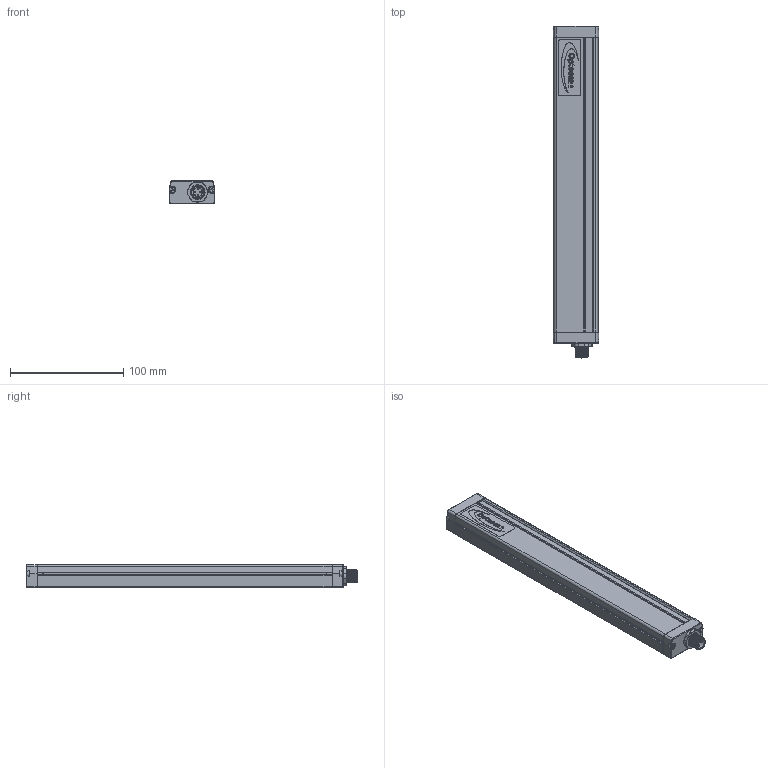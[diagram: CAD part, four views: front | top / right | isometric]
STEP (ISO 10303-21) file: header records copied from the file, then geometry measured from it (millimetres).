
FILE_DESCRIPTION(/* description */ (''),/* implementation_level */ '2;1');
FILE_NAME(/* name */ 'C:\Users\Andrea\SynologyDrive\Optoscan\Libreria Componenti\00 - Barriere\Barriera sorgente\Barriera RX\Argo_260_RX.stp',/* time_stamp */ '2022-06-30T15:46:46+02:00',/* author */ ('Andrea'),/* organization */ (''),/* preprocessor_version */ 'ST-DEVELOPER v18.1',/* originating_system */ 'Autodesk Inventor 2022',/* authorisation */ '');
FILE_SCHEMA (('AUTOMOTIVE_DESIGN { 1 0 10303 214 3 1 1 }'));
Length unit declared in the file: millimetre
Products named in the file (1): Argo_260_RX
Bounding box: 40.5 x 292.8 x 20.75 mm (x, y, z)
Volume: 61783.9 mm3; surface area: 78147 mm2
Topology: 1 solids, 2 shells, 753 faces, 2017 edges, 1278 vertices
Faces by surface type: plane 336, cylinder 216, bspline 115, torus 72, cone 8, sphere 6
Full cylindrical faces by diameter (mm): 1 x12, 1.2 x4, 2.459 x4, 2.5 x4, 3 x4, 3.5 x4, 5.5 x4, 8 x1, 10 x1, 10.5 x2, 11.75 x8, 12 x1, 12.3 x3, 14.5 x1, 16.7 x1, 17.5 x1
Entity records: 30151 total; most frequent: CARTESIAN_POINT 11037, ORIENTED_EDGE 4018, DIRECTION 3500, EDGE_CURVE 2009, VERTEX_POINT 1278, AXIS2_PLACEMENT_3D 1219, LINE 1062, VECTOR 1062
